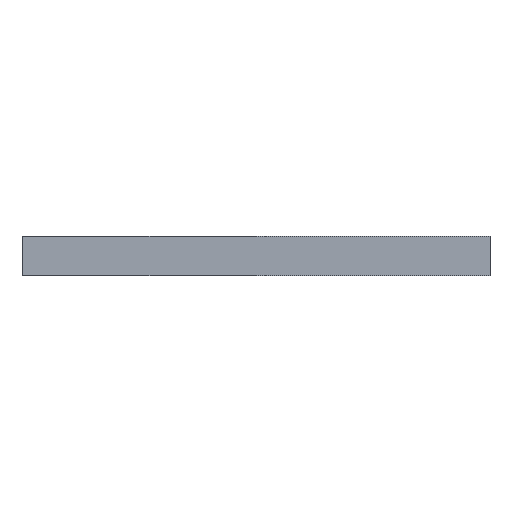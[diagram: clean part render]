
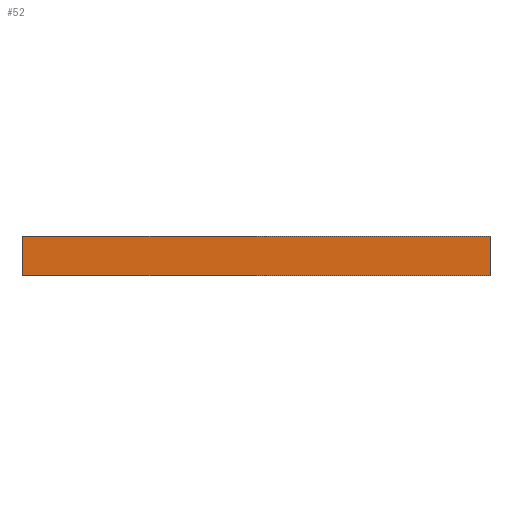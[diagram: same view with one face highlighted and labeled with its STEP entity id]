
A CAD part, left-side view. The second image highlights one B-rep face of the part: STEP entity #52.
In plain terms, the highlighted planar face has unit normal (-1, 0, 0).
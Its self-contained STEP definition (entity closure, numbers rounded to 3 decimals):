
#52 = ADVANCED_FACE ( 'NONE', ( #1916 ), #4194, .T. ) ;
#110 = EDGE_CURVE ( 'NONE', #2562, #119, #219, .T. ) ;
#119 = VERTEX_POINT ( 'NONE', #4706 ) ;
#219 = LINE ( 'NONE', #2657, #3912 ) ;
#255 = ORIENTED_EDGE ( 'NONE', *, *, #110, .T. ) ;
#540 = CARTESIAN_POINT ( 'NONE',  ( 0., 17.85, 0. ) ) ;
#593 = DIRECTION ( 'NONE',  ( -1., 0., 0. ) ) ;
#1075 = LINE ( 'NONE', #3654, #4102 ) ;
#1320 = LINE ( 'NONE', #2827, #1785 ) ;
#1581 = ORIENTED_EDGE ( 'NONE', *, *, #4214, .T. ) ;
#1785 = VECTOR ( 'NONE', #4338, 1000. ) ;
#1912 = EDGE_CURVE ( 'NONE', #2060, #119, #1320, .T. ) ;
#1916 = FACE_OUTER_BOUND ( 'NONE', #2631, .T. ) ;
#2060 = VERTEX_POINT ( 'NONE', #2239 ) ;
#2239 = CARTESIAN_POINT ( 'NONE',  ( 0., 17.85, 1.5 ) ) ;
#2257 = AXIS2_PLACEMENT_3D ( 'NONE', #540, #593, #2433 ) ;
#2407 = ORIENTED_EDGE ( 'NONE', *, *, #4353, .F. ) ;
#2433 = DIRECTION ( 'NONE',  ( 0., 0., 1. ) ) ;
#2562 = VERTEX_POINT ( 'NONE', #4601 ) ;
#2621 = CARTESIAN_POINT ( 'NONE',  ( 0., 17.85, 0. ) ) ;
#2631 = EDGE_LOOP ( 'NONE', ( #1581, #255, #2862, #2407 ) ) ;
#2657 = CARTESIAN_POINT ( 'NONE',  ( 0., 0., 0. ) ) ;
#2683 = VECTOR ( 'NONE', #4782, 1000. ) ;
#2784 = VERTEX_POINT ( 'NONE', #2621 ) ;
#2827 = CARTESIAN_POINT ( 'NONE',  ( 0., 17.85, 1.5 ) ) ;
#2862 = ORIENTED_EDGE ( 'NONE', *, *, #1912, .F. ) ;
#3278 = CARTESIAN_POINT ( 'NONE',  ( 0., 17.85, 0. ) ) ;
#3654 = CARTESIAN_POINT ( 'NONE',  ( 0., 17.85, 0. ) ) ;
#3912 = VECTOR ( 'NONE', #4167, 1000. ) ;
#4096 = DIRECTION ( 'NONE',  ( 0., -1., 0. ) ) ;
#4102 = VECTOR ( 'NONE', #4096, 1000. ) ;
#4137 = LINE ( 'NONE', #3278, #2683 ) ;
#4167 = DIRECTION ( 'NONE',  ( 0., 0., 1. ) ) ;
#4194 = PLANE ( 'NONE',  #2257 ) ;
#4214 = EDGE_CURVE ( 'NONE', #2784, #2562, #1075, .T. ) ;
#4338 = DIRECTION ( 'NONE',  ( 0., -1., 0. ) ) ;
#4353 = EDGE_CURVE ( 'NONE', #2784, #2060, #4137, .T. ) ;
#4601 = CARTESIAN_POINT ( 'NONE',  ( 0., 0., 0. ) ) ;
#4706 = CARTESIAN_POINT ( 'NONE',  ( 0., 0., 1.5 ) ) ;
#4782 = DIRECTION ( 'NONE',  ( 0., 0., 1. ) ) ;
